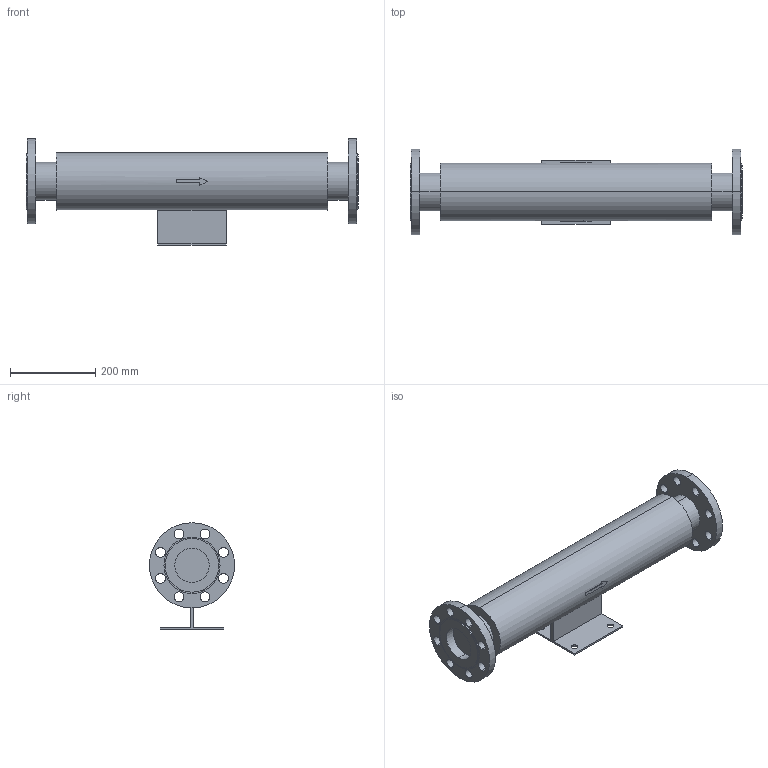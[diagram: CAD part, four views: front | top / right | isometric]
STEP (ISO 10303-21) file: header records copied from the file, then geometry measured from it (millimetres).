
FILE_DESCRIPTION( (''), '2;1');
FILE_NAME ('PC1027.9516.EB-12 80A_29862.stp','2025-07-30T09:19:39',(''),(''),'spGate 20.6.3 (****-****-****-****)','','');
FILE_SCHEMA (('AUTOMOTIVE_DESIGN'));
Length unit declared in the file: millimetre
Bounding box: 780 x 200 x 250 mm (x, y, z)
Volume: 10988869.4 mm3; surface area: 551688.1 mm2
Topology: 1 solids, 1 shells, 99 faces, 254 edges, 170 vertices
Faces by surface type: cylinder 62, plane 37
Entity records: 5109 total; most frequent: CARTESIAN_POINT 593, DIRECTION 520, ORIENTED_EDGE 508, COLOUR_RGB 354, PRESENTATION_STYLE_ASSIGNMENT 354, STYLED_ITEM 354, EDGE_CURVE 254, DRAUGHTING_PRE_DEFINED_CURVE_FONT 254
